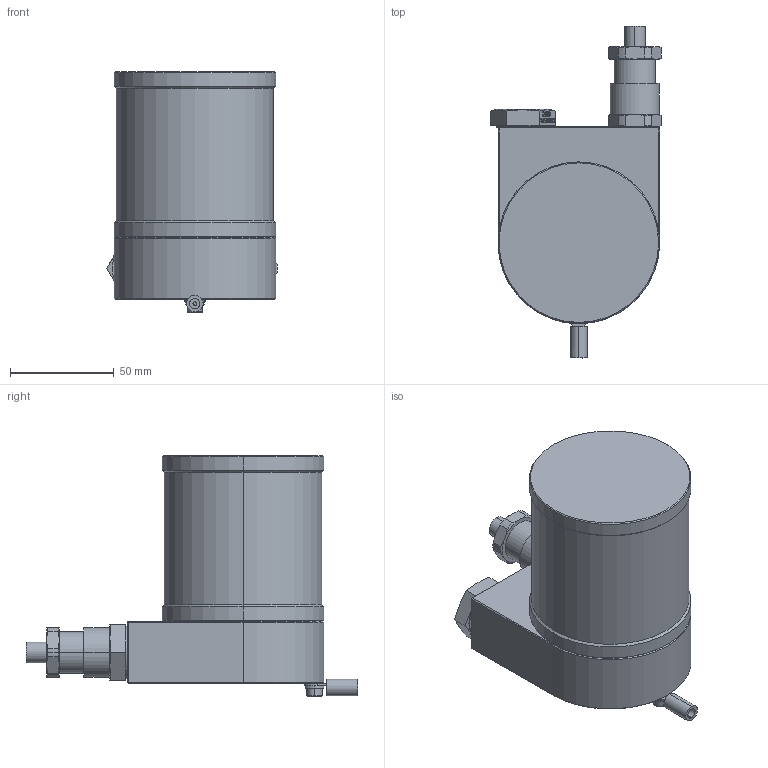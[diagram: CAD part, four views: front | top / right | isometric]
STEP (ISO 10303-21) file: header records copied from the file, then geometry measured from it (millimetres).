
FILE_DESCRIPTION (( 'STEP AP214' ), '1' );
FILE_NAME ('drawing-oc-7-at-800-4nm-hccnnn-y-2rw-n.STEP', '2023-06-26T11:24:45', ( '' ), ( '' ), 'SwSTEP 2.0', 'SolidWorks 2022', '' );
FILE_SCHEMA (( 'AUTOMOTIVE_DESIGN' ));
Length unit declared in the file: millimetre
Products named in the file (1): drawing-oc-7-at-800-4nm-hccnnn-y-2rw-n
Bounding box: 82.44 x 160.25 x 116.2 mm (x, y, z)
Volume: 288928.6 mm3; surface area: 100007.8 mm2
Topology: 18 solids, 24 shells, 1199 faces, 3028 edges, 1952 vertices
Faces by surface type: plane 628, bspline 255, cylinder 171, cone 137, torus 8
Entity records: 58051 total; most frequent: CARTESIAN_POINT 17571, ORIENTED_EDGE 5976, DIRECTION 4800, EDGE_CURVE 2988, VERTEX_POINT 1952, LINE 1942, VECTOR 1942, AXIS2_PLACEMENT_3D 1429
